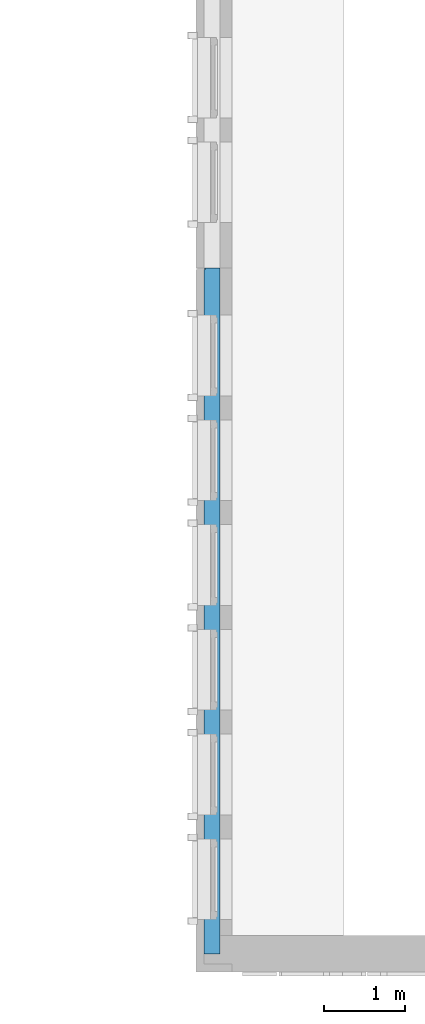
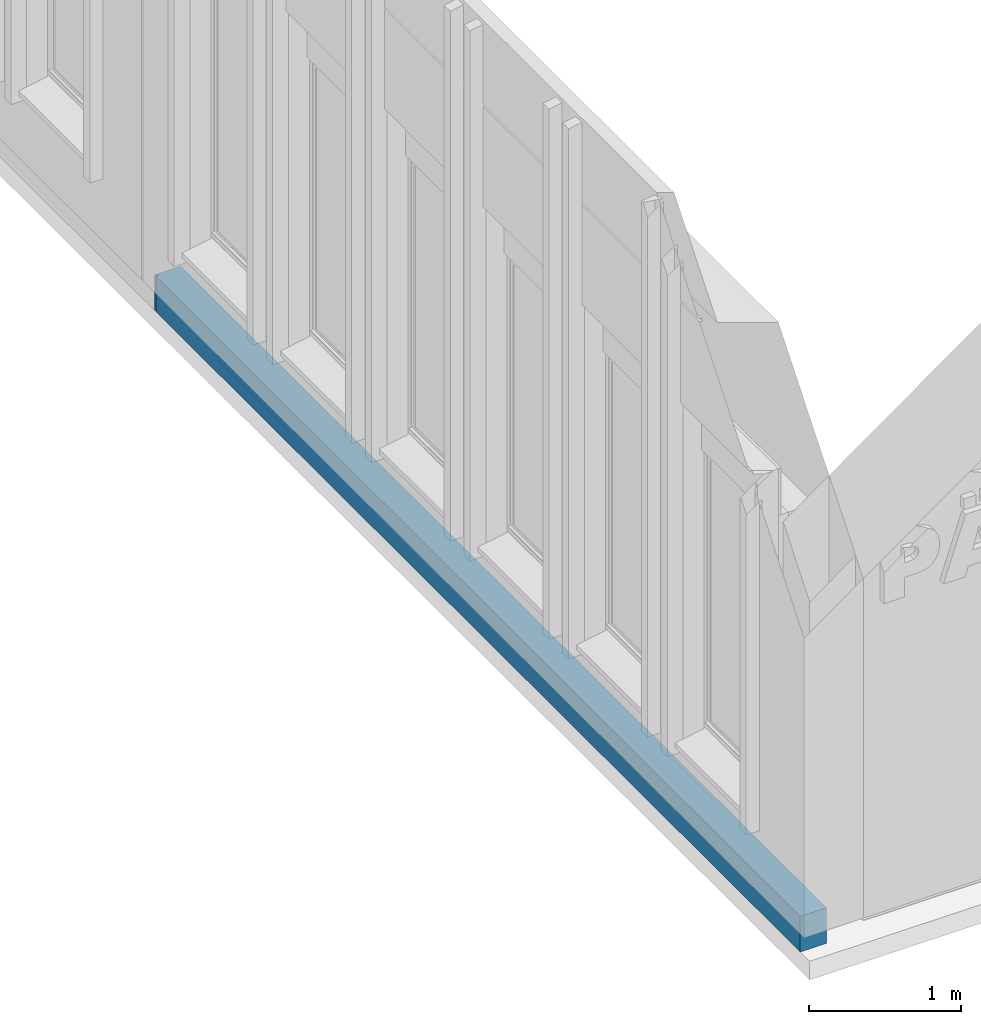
# One storey, part 3 of 33: 1 wall, 1 opening.
"""IFC2X3 building model written with IfcOpenShell, lengths in millimetres."""

from ifc_helpers import new_model, entity, si_unit, converted_unit, derived_unit, direction, frame, frame_2d, origin, place, context, subcontext, project, spatial, rectangle, extrude, material, layer, layer_set, layer_usage, type_object, element, save


model = new_model("IFC2X3")

# Units and contexts
model_context = context("Model", 3, precision=0.01, world=origin(), true_north=direction((6.12303176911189e-17, 1.0)))
body_context = subcontext(model_context, "Body", "Model", "MODEL_VIEW")
ifc_project = project(units=[si_unit("LENGTHUNIT", "METRE", prefix="MILLI"), si_unit("AREAUNIT", "SQUARE_METRE"), si_unit("VOLUMEUNIT", "CUBIC_METRE"), converted_unit("PLANEANGLEUNIT", "DEGREE", entity("IfcRatioMeasure", 0.0174532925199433), si_unit("PLANEANGLEUNIT", "RADIAN"), dimensions=[0, 0, 0, 0, 0, 0, 0]), si_unit("MASSUNIT", "GRAM", prefix="KILO"), derived_unit("MASSDENSITYUNIT", [(si_unit("MASSUNIT", "GRAM", prefix="KILO"), 1), (si_unit("LENGTHUNIT", "METRE"), -3)]), si_unit("TIMEUNIT", "SECOND"), si_unit("FREQUENCYUNIT", "HERTZ"), si_unit("THERMODYNAMICTEMPERATUREUNIT", "DEGREE_CELSIUS"), derived_unit("THERMALTRANSMITTANCEUNIT", [(si_unit("MASSUNIT", "GRAM", prefix="KILO"), 1), (si_unit("THERMODYNAMICTEMPERATUREUNIT", "KELVIN"), -1), (si_unit("TIMEUNIT", "SECOND"), -3)]), derived_unit("VOLUMETRICFLOWRATEUNIT", [(si_unit("LENGTHUNIT", "METRE"), 3), (si_unit("TIMEUNIT", "SECOND"), -1)]), si_unit("ELECTRICCURRENTUNIT", "AMPERE"), si_unit("ELECTRICVOLTAGEUNIT", "VOLT"), si_unit("POWERUNIT", "WATT"), si_unit("FORCEUNIT", "NEWTON", prefix="KILO"), si_unit("ILLUMINANCEUNIT", "LUX"), si_unit("LUMINOUSFLUXUNIT", "LUMEN"), si_unit("LUMINOUSINTENSITYUNIT", "CANDELA"), derived_unit("USERDEFINED", [(si_unit("MASSUNIT", "GRAM", prefix="KILO"), -1), (si_unit("LENGTHUNIT", "METRE"), -2), (si_unit("TIMEUNIT", "SECOND"), 3), (si_unit("LUMINOUSFLUXUNIT", "LUMEN"), 1)]), derived_unit("LINEARVELOCITYUNIT", [(si_unit("LENGTHUNIT", "METRE"), 1), (si_unit("TIMEUNIT", "SECOND"), -1)]), si_unit("PRESSUREUNIT", "PASCAL"), derived_unit("USERDEFINED", [(si_unit("LENGTHUNIT", "METRE"), -2), (si_unit("MASSUNIT", "GRAM", prefix="KILO"), 1), (si_unit("TIMEUNIT", "SECOND"), -2)])], contexts=[model_context])

# Site, building, storey
site_placement = place(None, origin())
site = spatial("IfcSite", under=ifc_project, at=site_placement, Name="Default", CompositionType="ELEMENT")
building_placement = place(site_placement, origin())
building = spatial("IfcBuilding", under=site, at=building_placement, CompositionType="ELEMENT")
storey_placement = place(building_placement, frame((0.0, 0.0, 4000.0)))
storey = spatial("IfcBuildingStorey", under=building, at=storey_placement, Name="2. KORRUS", CompositionType="ELEMENT", Elevation=4000.0)

# Wall, opening
ifc_material = material(Name="Soojusisolatsioon PIR tuletõkkekattega")
ifc_layer = layer(ifc_material, 200.0)
ifc_layer_set = layer_set([ifc_layer], Name="Basic Wall:vs_mineraalvill 200mm")
ifc_layer_usage = layer_usage(ifc_layer_set, "AXIS2", "POSITIVE", -100.0)
wall_type = type_object("IfcWallType", Name="Basic Wall:vs_mineraalvill 200mm", PredefinedType="STANDARD", material=ifc_layer_set)
wall_placement = place(storey_placement, frame((-250.0, 8285.1407951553, -400.0), z_axis=(0.0, 0.0, 1.0), x_axis=(0.0, -1.0, 0.0)))
wall = element("IfcWallStandardCase", 1, at=wall_placement, inside=storey, type_object=wall_type, material=ifc_layer_usage, Name="Basic Wall:vs_mineraalvill 200mm", ObjectType="Basic Wall:vs_mineraalvill 200mm", context=body_context, shape_type="SweptSolid", body=[
    extrude(rectangle(XDim=8510.1407951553, YDim=200.0, at=frame_2d((4255.07039757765, -3.5527136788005e-14), x_axis=(-1.0, 0.0))), origin(), (0.0, 0.0, 1.0), 285.0),
])
opening_placement = place(wall_placement, origin())
element("IfcOpeningElement", 2, at=opening_placement, cuts=wall, Name="Basic Wall:vs_mineraalvill 200mm", ObjectType="Recess", context=body_context, shape_type="SweptSolid", body=[
    extrude(rectangle(XDim=285.0, YDim=15.9999999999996, at=frame_2d((0.0, 5.40900657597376e-13), x_axis=(1.0, 0.0))), frame((12.0, -100.0, 142.5), z_axis=(0.0, 1.0, 0.0), x_axis=(0.0, 0.0, -1.0)), (0.0, 0.0, 1.0), 20.0),
    extrude(rectangle(XDim=4815.0, YDim=15.9999999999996, at=frame_2d((4.54747350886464e-13, 5.40900657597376e-13), x_axis=(1.0, 0.0))), frame((12.0, -200.0, 2692.5), z_axis=(0.0, 1.0, 0.0), x_axis=(0.0, 0.0, -1.0)), (0.0, 0.0, 1.0), 20.0),
])

save(model, "model.ifc")
